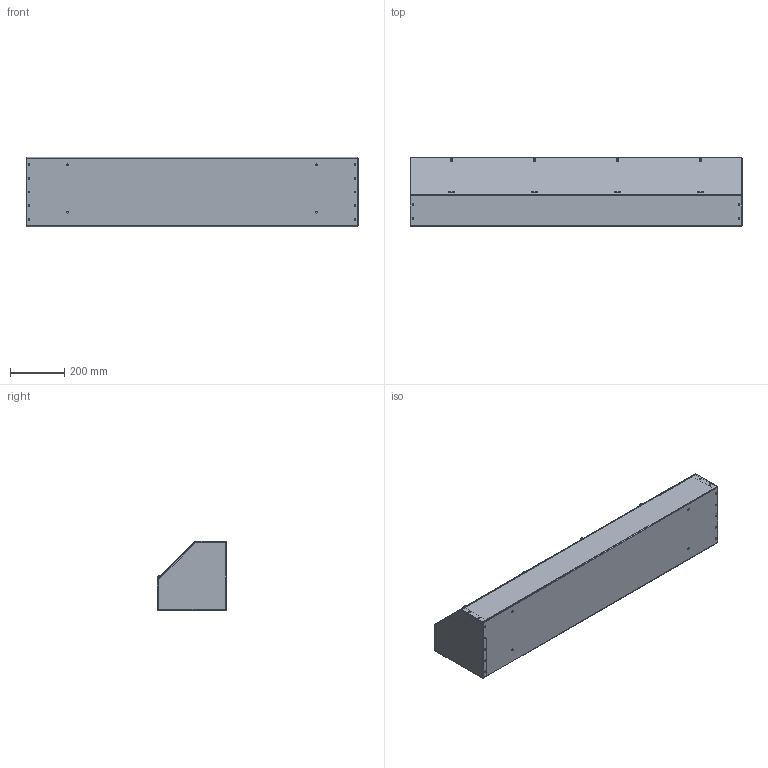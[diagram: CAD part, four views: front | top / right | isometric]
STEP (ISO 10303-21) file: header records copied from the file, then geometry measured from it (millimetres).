
FILE_DESCRIPTION (( 'STEP AP203' ), '1' );
FILE_NAME ('at101048.STEP', '2017-10-03T20:28:22', ( '' ), ( '' ), 'SwSTEP 2.0', 'SolidWorks 2014', '' );
FILE_SCHEMA (( 'CONFIG_CONTROL_DESIGN' ));
Length unit declared in the file: inch
Products named in the file (8): 89159123; 16111002_INSTALLED .144 THICKNESS; 89159159; 89159115; 89159138; 87791796_PANHTS 0.19-32-type I-F-0.563-S; 87780048; at101048
Assembly tree (38 placements, depth 3):
  at101048
    89159159
      89159115
      89159123  x2
      16111002_INSTALLED .144 THICKNESS  x28
    89159138
    87791796_PANHTS 0.19-32-type I-F-0.563-S  x4
    87780048
Bounding box: 1219.2 x 255.83 x 255.83 mm (x, y, z)
Volume: 2383083.9 mm3; surface area: 2635918.5 mm2
Topology: 37 solids, 37 shells, 1682 faces, 4196 edges, 2616 vertices
Faces by surface type: plane 870, cylinder 476, cone 176, bspline 128, torus 32
Entity records: 21869 total; most frequent: CARTESIAN_POINT 4181, DIRECTION 3369, ORIENTED_EDGE 3344, EDGE_CURVE 1672, AXIS2_PLACEMENT_3D 1166, VERTEX_POINT 1072, LINE 1037, VECTOR 1037
